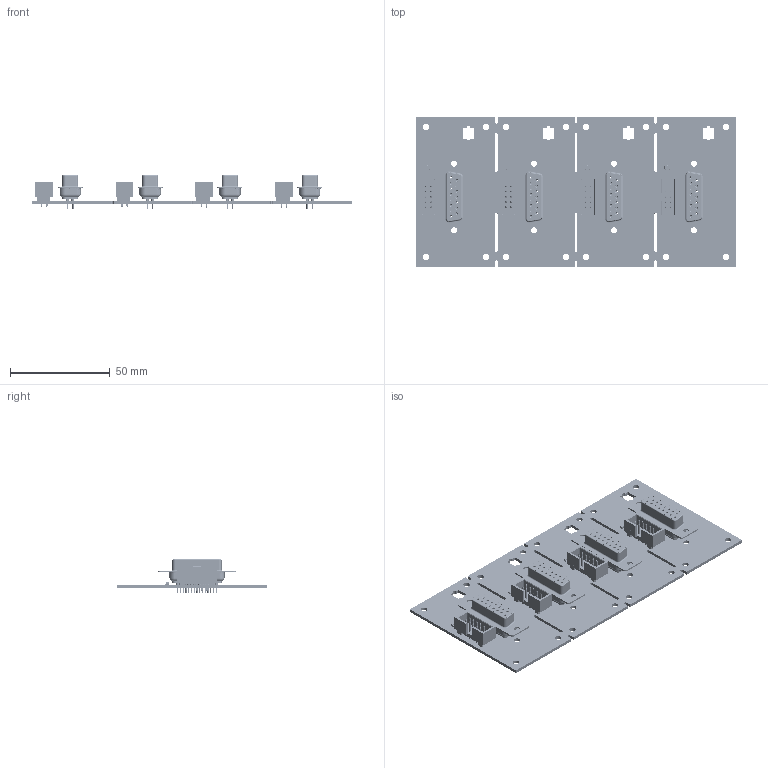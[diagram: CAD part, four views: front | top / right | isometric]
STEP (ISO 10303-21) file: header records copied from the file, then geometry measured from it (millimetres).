
FILE_DESCRIPTION (( 'STEP AP203' ), '1' );
FILE_NAME ('0222_INT-FOEM-EXT.STEP', '2022-05-23T13:56:09', ( '' ), ( '' ), 'SwSTEP 2.0', 'SolidWorks 2020', '' );
FILE_SCHEMA (( 'CONFIG_CONTROL_DESIGN' ));
Products named in the file (1): 0222_INT-FOEM-EXT
Bounding box: 160 x 75 x 16.75 mm (x, y, z)
Volume: 31548.3 mm3; surface area: 57635.9 mm2
Topology: 85 solids, 85 shells, 6612 faces, 17546 edges, 11220 vertices
Faces by surface type: plane 4040, cylinder 1404, cone 900, bspline 160, torus 108
Full cylindrical faces by diameter (mm): 1 x60, 1.1 x40, 1.2 x60, 1.5 x60, 1.6 x60, 3 x16, 3.05 x8, 3.2 x16
Entity records: 232039 total; most frequent: CARTESIAN_POINT 80227, ORIENTED_EDGE 34036, DIRECTION 28432, EDGE_CURVE 17018, VERTEX_POINT 11084, AXIS2_PLACEMENT_3D 9817, VECTOR 8798, LINE 8798
